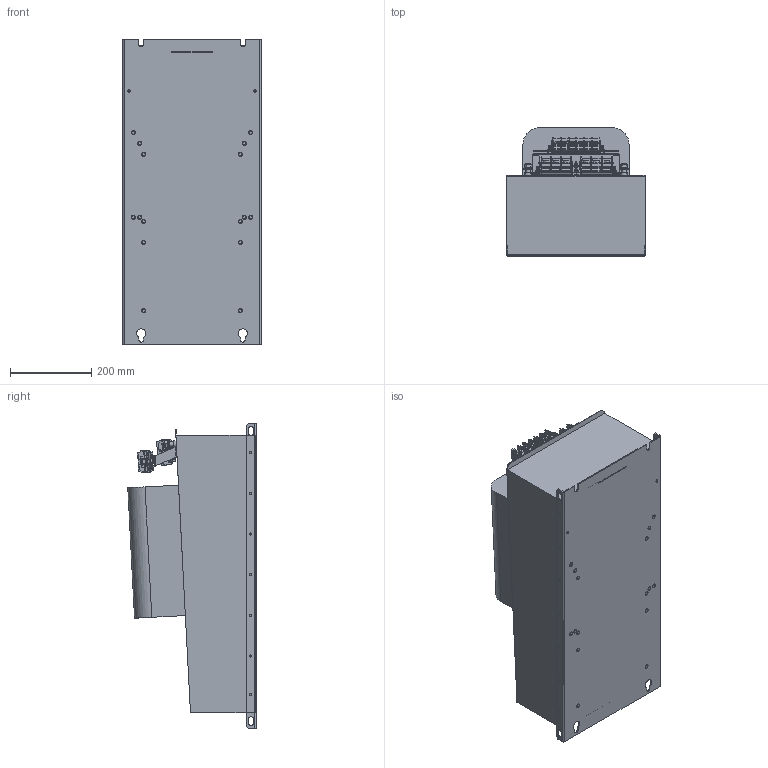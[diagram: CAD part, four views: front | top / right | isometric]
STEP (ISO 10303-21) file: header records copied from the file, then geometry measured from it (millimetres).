
FILE_DESCRIPTION((''),'2;1');
FILE_NAME('C:\SapWorkDir\Inventor\P01\F\EcosineEVO-FnL-E0XXJXX.stp','2016-09-30T10:16:26',('erika.jenzer'),(''),'Autodesk Inventor 2013','Autodesk Inventor 2013','');
FILE_SCHEMA(('AUTOMOTIVE_DESIGN { 1 0 10303 214 1 1 1 1 }'));
Length unit declared in the file: millimetre
Products named in the file (24): EcosineEVO-FnL-E0XXJXX1; 155017_BASE PLATE F WITH INSERTS; 155018_BASE PLATE F; 112664_INSERT BOLT FH M8X20; 112624_INSERT BOLT FH M5X12; 155015_HOUSING F WITH INSERTS; 112722_INSERT NUT M10; 155024_TERMINAL MODULE EF; 159596_RAIL WITH INSERTS; 155023_DIN RAIL TH35-7.5 EF; 153988_DKB10; 156473_END COVER DKB10E; 154141_DKB 100; 156476_END COVER DKB100E-A; 160161_SS9B; 155034_TERMINAL SUPPORT EF WITH INSERTS; 155032_TERMINAL SUPPORT EF; 155036_TDJ MODULE EF; 154836_DIN RAIL TH35-7.5 EF-J; 153992_DKB 60; 156474_END COVER DKB60E-A; 122821_EARTH-SCREW M10X35; DIN EN 1661 M5; 163262_GLORIA F STP DUMMY
Assembly tree (62 placements, depth 4):
  EcosineEVO-FnL-E0XXJXX1
    155017_BASE PLATE F WITH INSERTS
      155018_BASE PLATE F
      112664_INSERT BOLT FH M8X20  x16
      112624_INSERT BOLT FH M5X12  x2
    155015_HOUSING F WITH INSERTS
      112722_INSERT NUT M10  x2
    155024_TERMINAL MODULE EF
      159596_RAIL WITH INSERTS
        155023_DIN RAIL TH35-7.5 EF
        112624_INSERT BOLT FH M5X12  x3
      153988_DKB10  x2
      156473_END COVER DKB10E
      154141_DKB 100  x6
      156476_END COVER DKB100E-A  x2
      160161_SS9B  x2
    155034_TERMINAL SUPPORT EF WITH INSERTS
      155032_TERMINAL SUPPORT EF
      112624_INSERT BOLT FH M5X12  x2
    155036_TDJ MODULE EF
      154836_DIN RAIL TH35-7.5 EF-J
      153992_DKB 60  x6
      156474_END COVER DKB60E-A
      160161_SS9B  x2
    122821_EARTH-SCREW M10X35  x2
    DIN EN 1661 M5  x2
    163262_GLORIA F STP DUMMY
Bounding box: 340 x 315.99 x 752 mm (x, y, z)
Volume: 52558482.9 mm3; surface area: 1801659.5 mm2
Topology: 60 solids, 60 shells, 4628 faces, 12529 edges, 8205 vertices
Faces by surface type: plane 3095, cylinder 1152, cone 175, bspline 84, torus 66, sphere 32, revolution 24
Full cylindrical faces by diameter (mm): 1.5 x16, 2.9 x4, 3.2 x8, 3.7 x4, 4 x32, 4.134 x2, 4.2 x21, 5 x18, 5.3 x14, 5.5 x5, 6 x4, 6.206 x7, 6.5 x11, 7 x12, 7.132 x12, 7.2 x12, 7.3 x6, 8 x34, 8.376 x2, 9 x2, 9.188 x2, 9.275 x16, 9.8 x16, 10 x16, 10.5 x2, 10.698 x12, 14.158 x2, 15.4 x2, 16.5 x2, 20 x2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
Entity records: 46139 total; most frequent: CARTESIAN_POINT 9747, DIRECTION 7249, ORIENTED_EDGE 7200, EDGE_CURVE 3600, VECTOR 2569, LINE 2569, VERTEX_POINT 2440, AXIS2_PLACEMENT_3D 2338
